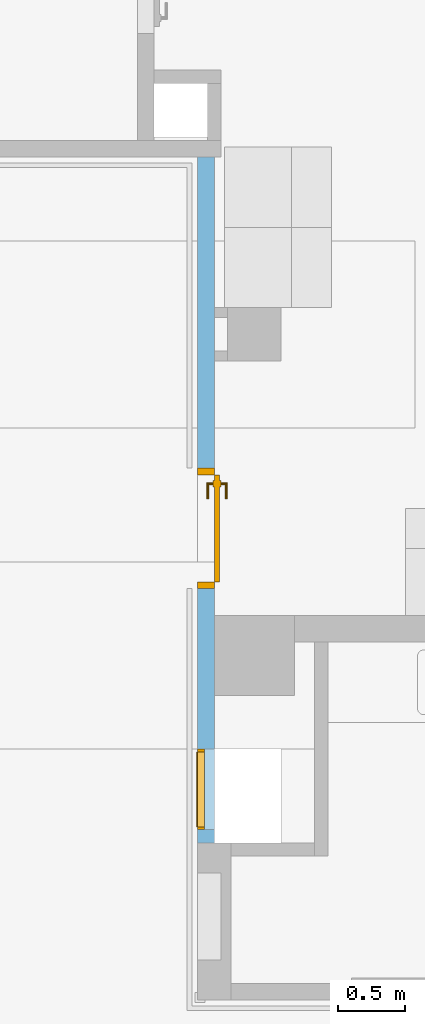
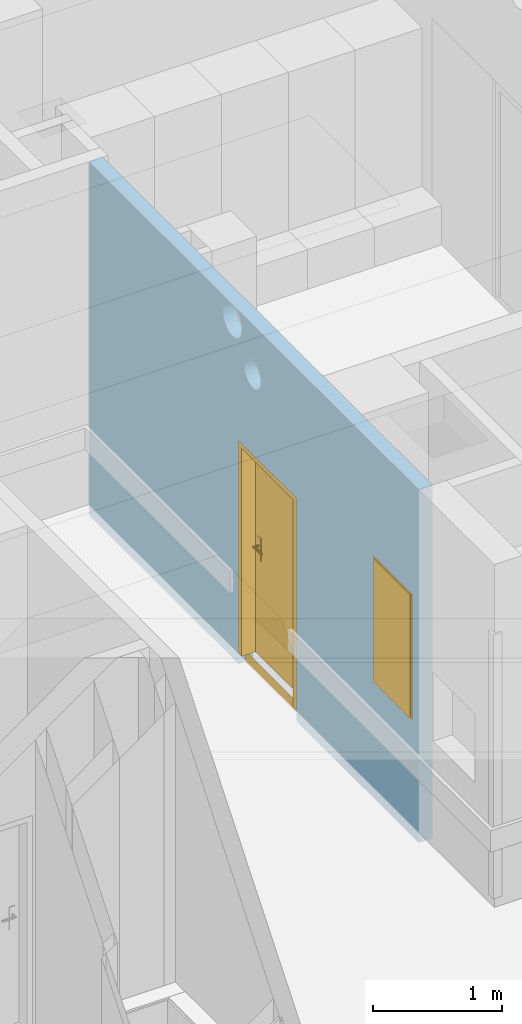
# One storey, part 97 of 140: 1 door, 1 window, 4 openings, plus 1 element that does not belong to this part.
"""IFC4 building model written with IfcOpenShell, lengths in metres."""

import ifcopenshell
import ifcopenshell.guid

model = None  # the IFC model being written
_history = None  # IfcOwnerHistory: only IFC2X3 demands one
_inside = {}  # id of a spatial element -> (the spatial element, [elements in it])
_under = {}  # id of a project, library or spatial element -> (it, [spatial elements below it])
_declared = {}  # id of a project -> (the project, [libraries it declares])
_typed = {}  # id of a type object -> (the type object, [elements of that type])
_made_of = {}  # id of a material, layer set ... -> (it, [elements and type objects made of it])


def new_model(schema):
    """Start an empty IFC model of exactly this schema.

    Asked for "IFC4X3", IfcOpenShell would pick the latest addendum, in which some entities
    have other attributes; the version numbers below select the first issue.
    IFC2X3 requires an IfcOwnerHistory on every rooted entity: one is made here for all.
    """
    global model, _history
    if schema == "IFC4X3":
        model = ifcopenshell.file(schema_version=(4, 3, 0, 0))
    else:
        model = ifcopenshell.file(schema=schema)
    _inside.clear()
    _under.clear()
    _declared.clear()
    _typed.clear()
    _made_of.clear()
    _history = None
    if model.schema == "IFC2X3":
        org = make("IfcOrganization", Name="unknown")
        user = make(
            "IfcPersonAndOrganization",
            ThePerson=make("IfcPerson", FamilyName="unknown"),
            TheOrganization=org,
        )
        app = make(
            "IfcApplication",
            ApplicationDeveloper=org,
            Version="unknown",
            ApplicationFullName="unknown",
            ApplicationIdentifier="unknown",
        )
        _history = make(
            "IfcOwnerHistory",
            OwningUser=user,
            OwningApplication=app,
            ChangeAction="ADDED",
            CreationDate=0,
        )
    return model


def make(cls, **values):
    """One entity of the class cls with the attributes given. An attribute that is None is left unset."""
    return model.create_entity(
        cls, **{name: value for name, value in values.items() if value is not None}
    )


def entity(cls, *values):
    """Any entity or typed value of the class cls, its attributes in the order of the schema. None: left unset."""
    e = model.create_entity(cls)
    for i, value in enumerate(values):
        if value is not None:
            e[i] = value
    return e


def rooted(cls, **values):
    """An entity with a GlobalId (a new one), such as an element, a storey or a relation."""
    return make(cls, GlobalId=ifcopenshell.guid.new(), OwnerHistory=_history, **values)


def si_unit(unit_type, name, prefix=None):
    """IfcSIUnit, for example si_unit("LENGTHUNIT", "METRE", prefix="MILLI")."""
    return make("IfcSIUnit", UnitType=unit_type, Prefix=prefix, Name=name)


def converted_unit(unit_type, name, factor, base, dimensions=None, offset=None):
    """IfcConversionBasedUnit, such as the inch: factor (a typed value) times the base unit."""
    return make(
        "IfcConversionBasedUnit"
        if offset is None
        else "IfcConversionBasedUnitWithOffset",
        ConversionOffset=offset,
        Dimensions=None
        if dimensions is None
        else entity("IfcDimensionalExponents", *dimensions),
        UnitType=unit_type,
        Name=name,
        ConversionFactor=make(
            "IfcMeasureWithUnit", ValueComponent=factor, UnitComponent=base
        ),
    )


def derived_unit(unit_type, elements):
    """IfcDerivedUnit: a product of units, each with its exponent."""
    return make(
        "IfcDerivedUnit",
        Elements=[
            make("IfcDerivedUnitElement", Unit=unit, Exponent=power)
            for unit, power in elements
        ],
        UnitType=unit_type,
    )


def assignment(units):
    """IfcUnitAssignment: the units of a project."""
    return None if units is None else make("IfcUnitAssignment", Units=units)


def point(xyz):
    """IfcCartesianPoint."""
    return None if xyz is None else make("IfcCartesianPoint", Coordinates=xyz)


def direction(xyz):
    """IfcDirection."""
    return None if xyz is None else make("IfcDirection", DirectionRatios=xyz)


def frame(location, z_axis=None, x_axis=None):
    """IfcAxis2Placement3D, a coordinate frame: its origin and axes. An axis left out is left unset."""
    return make(
        "IfcAxis2Placement3D",
        Location=point(location),
        Axis=direction(z_axis),
        RefDirection=direction(x_axis),
    )


def frame_2d(location, x_axis=None):
    """IfcAxis2Placement2D, a coordinate frame in the plane: its origin and x axis."""
    return make(
        "IfcAxis2Placement2D", Location=point(location), RefDirection=direction(x_axis)
    )


def origin():
    """The frame at (0, 0, 0) with its axes left unset."""
    return frame((0.0, 0.0, 0.0))


def origin_with_axes():
    """The frame at (0, 0, 0) with the z axis (0, 0, 1) and the x axis (1, 0, 0) written out."""
    return frame((0.0, 0.0, 0.0), z_axis=(0.0, 0.0, 1.0), x_axis=(1.0, 0.0, 0.0))


def place(relative_to, where):
    """IfcLocalPlacement: puts the frame where relative to a parent placement (None: the world)."""
    return make(
        "IfcLocalPlacement", PlacementRelTo=relative_to, RelativePlacement=where
    )


def context(
    kind, dimensions, precision=None, world=None, true_north=None, identifier=None
):
    """IfcGeometricRepresentationContext, for example the 3D "Model" context."""
    return make(
        "IfcGeometricRepresentationContext",
        ContextIdentifier=identifier,
        ContextType=kind,
        CoordinateSpaceDimension=dimensions,
        Precision=precision,
        WorldCoordinateSystem=world,
        TrueNorth=true_north,
    )


def subcontext(parent, identifier, kind, view, scale=None):
    """IfcGeometricRepresentationSubContext, for example "Body" below "Model"."""
    return make(
        "IfcGeometricRepresentationSubContext",
        ContextIdentifier=identifier,
        ContextType=kind,
        ParentContext=parent,
        TargetScale=scale,
        TargetView=view,
    )


def project(units=None, contexts=None):
    """IfcProject with its units and contexts."""
    return rooted(
        "IfcProject",
        Name="project",
        RepresentationContexts=contexts,
        UnitsInContext=assignment(units),
    )


def spatial(cls, under=None, at=None, **own):
    """A site, building, storey or space (cls), placed at a placement, below another one or the project."""
    s = rooted(cls, ObjectPlacement=at, **own)
    if under is not None:
        _under.setdefault(under.id(), (under, []))[1].append(s)
    return s


def polyline(points):
    """IfcPolyline through the points."""
    return make("IfcPolyline", Points=[point(p) for p in points])


def profile(cls, at=None, kind="AREA", **sizes):
    """A parametric profile (cls). Its sizes go by their IFC names, for example OverallWidth=200.0."""
    return make(cls, ProfileType=kind, Position=at, **sizes)


def rectangle(**sizes):
    """IfcRectangleProfileDef."""
    return profile("IfcRectangleProfileDef", **sizes)


def outline(outer, holes=None, kind="AREA"):
    """IfcArbitraryClosedProfileDef: a profile drawn as a closed curve; with holes, ...WithVoids."""
    if holes is None:
        return make("IfcArbitraryClosedProfileDef", ProfileType=kind, OuterCurve=outer)
    return make(
        "IfcArbitraryProfileDefWithVoids",
        ProfileType=kind,
        OuterCurve=outer,
        InnerCurves=holes,
    )


def extrude(swept, where, along, depth):
    """IfcExtrudedAreaSolid: the profile swept, set in the frame where, extruded along a direction by depth."""
    return make(
        "IfcExtrudedAreaSolid",
        SweptArea=swept,
        Position=where,
        ExtrudedDirection=direction(along),
        Depth=depth,
    )


def faces_of(points, faces, orient=None, outer=None):
    """IfcFace entities. A face is a list of loops; a loop is a list of indices into points, from 0.

    orient and outer hold one flag for each loop. By default every Orientation is true, the
    first loop of a face is its IfcFaceOuterBound and the others are IfcFaceBound.
    """
    made = []
    for i, loops in enumerate(faces):
        bounds = []
        for j, loop in enumerate(loops):
            is_outer = j == 0 if outer is None else outer[i][j]
            bounds.append(
                make(
                    "IfcFaceOuterBound" if is_outer else "IfcFaceBound",
                    Bound=make("IfcPolyLoop", Polygon=[points[k] for k in loop]),
                    Orientation=True if orient is None else orient[i][j],
                )
            )
        made.append(make("IfcFace", Bounds=bounds))
    return made


def closed_shell(faces, orient=None, outer=None):
    """The faces of one IfcClosedShell. faceted_brep and surface_model build it on their shared points."""
    return ("IfcClosedShell", faces, orient, outer)


def open_shell(faces, orient=None, outer=None):
    """The faces of one IfcOpenShell. surface_model builds it on its shared points."""
    return ("IfcOpenShell", faces, orient, outer)


def faceted_brep(points, faces, orient=None, outer=None, voids=None):
    """IfcFacetedBrep: a solid bounded by flat faces; with voids (closed shells), ...WithVoids."""
    shared = [point(p) for p in points]
    hull = make("IfcClosedShell", CfsFaces=faces_of(shared, faces, orient, outer))
    if voids is None:
        return make("IfcFacetedBrep", Outer=hull)
    return make(
        "IfcFacetedBrepWithVoids",
        Outer=hull,
        Voids=[
            make(cls, CfsFaces=faces_of(shared, fs, o, b)) for cls, fs, o, b in voids
        ],
    )


def surface_model(cls, points, shells):
    """IfcFaceBasedSurfaceModel or IfcShellBasedSurfaceModel (cls): surfaces that need not close."""
    shared = [point(p) for p in points]
    made = [make(c, CfsFaces=faces_of(shared, fs, o, b)) for c, fs, o, b in shells]
    if cls == "IfcFaceBasedSurfaceModel":
        return make(cls, FbsmFaces=made)
    return make(cls, SbsmBoundary=made)


def shape(context_of_items, identifier, shape_type, items):
    """IfcShapeRepresentation: the items that make up one representation, for example the "Body"."""
    return make(
        "IfcShapeRepresentation",
        ContextOfItems=context_of_items,
        RepresentationIdentifier=identifier,
        RepresentationType=shape_type,
        Items=items,
    )


def source(mapping_origin, context_of_items, identifier, shape_type, items):
    """IfcRepresentationMap: a shape defined once, which mapped items show again and again."""
    return make(
        "IfcRepresentationMap",
        MappingOrigin=mapping_origin,
        MappedRepresentation=shape(context_of_items, identifier, shape_type, items),
    )


def transform(
    local_origin,
    x_axis=None,
    y_axis=None,
    z_axis=None,
    scale=None,
    scale2=None,
    scale3=None,
    uniform=True,
):
    """IfcCartesianTransformationOperator3D, or its non-uniform kind. x_axis, y_axis, z_axis: its Axis1, 2, 3."""
    if uniform:
        return make(
            "IfcCartesianTransformationOperator3D",
            Axis1=direction(x_axis),
            Axis2=direction(y_axis),
            LocalOrigin=point(local_origin),
            Scale=scale,
            Axis3=direction(z_axis),
        )
    return make(
        "IfcCartesianTransformationOperator3DnonUniform",
        Axis1=direction(x_axis),
        Axis2=direction(y_axis),
        LocalOrigin=point(local_origin),
        Scale=scale,
        Axis3=direction(z_axis),
        Scale2=scale2,
        Scale3=scale3,
    )


def mapped(mapping_source, mapping_target):
    """IfcMappedItem: shows the shape of a source again, moved by a transform."""
    return make(
        "IfcMappedItem", MappingSource=mapping_source, MappingTarget=mapping_target
    )


def material(Name=None, Category=None):
    """IfcMaterial."""
    return make("IfcMaterial", Name=Name, Category=Category)


def layer(
    of_material, thickness, ventilated=None, Name=None, Category=None, Priority=None
):
    """IfcMaterialLayer: one layer of a wall or slab, of a material (None: an air gap)."""
    return make(
        "IfcMaterialLayer",
        Material=of_material,
        LayerThickness=thickness,
        IsVentilated=ventilated,
        Name=Name,
        Category=Category,
        Priority=Priority,
    )


def layer_set(layers, Name=None):
    """IfcMaterialLayerSet."""
    return make("IfcMaterialLayerSet", MaterialLayers=layers, LayerSetName=Name)


def layer_usage(for_layer_set, set_direction, sense, offset, extent=None):
    """IfcMaterialLayerSetUsage: how a layer set lies in its element."""
    return make(
        "IfcMaterialLayerSetUsage",
        ForLayerSet=for_layer_set,
        LayerSetDirection=set_direction,
        DirectionSense=sense,
        OffsetFromReferenceLine=offset,
        ReferenceExtent=extent,
    )


def made_of(thing, what):
    """Note that an element or type object is made of a material, layer set ...; save() writes the relation."""
    if what is not None:
        _made_of.setdefault(what.id(), (what, []))[1].append(thing)
    return thing


def type_object(cls, material=None, **own):
    """A type object (cls), such as IfcWallType, which elements share."""
    return made_of(rooted(cls, **own), material)


def element(
    cls,
    number,
    at=None,
    inside=None,
    cuts=None,
    type_object=None,
    material=None,
    context=None,
    identifier="Body",
    shape_type=None,
    held_by="IfcProductDefinitionShape",
    body=None,
    shapes=None,
    **own,
):
    """One element of the class cls, such as IfcWall. Its Tag is "e" and its number.

    at: its placement. inside: the storey or other place that contains it. cuts: it is an
    opening in that element (IfcRelVoidsElement). A single representation is given by context,
    identifier, shape_type and body (its items); several are given by shapes. held_by: the class
    of the entity that holds the representations. save() writes the other relations.
    """
    e = rooted(cls, Tag="e%d" % number, ObjectPlacement=at, **own)
    if body is not None:
        shapes = [shape(context, identifier, shape_type, body)]
    if shapes is not None:
        e.Representation = make(held_by, Representations=shapes)
    if inside is not None:
        _inside.setdefault(inside.id(), (inside, []))[1].append(e)
    if cuts is not None:
        rooted(
            "IfcRelVoidsElement", RelatingBuildingElement=cuts, RelatedOpeningElement=e
        )
    if type_object is not None:
        _typed.setdefault(type_object.id(), (type_object, []))[1].append(e)
    return made_of(e, material)


def fill(opening, filler):
    """IfcRelFillsElement: the door or window that sits in an opening."""
    return rooted(
        "IfcRelFillsElement",
        RelatingOpeningElement=opening,
        RelatedBuildingElement=filler,
    )


def aggregate(whole, parts):
    """IfcRelAggregates: a whole, such as a stair, and the parts it consists of."""
    return rooted("IfcRelAggregates", RelatingObject=whole, RelatedObjects=parts)


def save(model, path):
    """Write the relations noted so far, then the file.

    IfcRelAggregates (storeys below a building ...), IfcRelContainedInSpatialStructure (elements
    in a storey), IfcRelDefinesByType, IfcRelAssociatesMaterial and IfcRelDeclares: one each for
    every whole, place, type object, material and project.
    """
    for whole, parts in _under.values():
        aggregate(whole, parts)
    for where, things in _inside.values():
        rooted(
            "IfcRelContainedInSpatialStructure",
            RelatedElements=things,
            RelatingStructure=where,
        )
    for kind, things in _typed.values():
        rooted("IfcRelDefinesByType", RelatedObjects=things, RelatingType=kind)
    for what, things in _made_of.values():
        rooted("IfcRelAssociatesMaterial", RelatedObjects=things, RelatingMaterial=what)
    for by, libraries in _declared.values():
        rooted("IfcRelDeclares", RelatingContext=by, RelatedDefinitions=libraries)
    model.write(path)


model = new_model("IFC4")

# Units and contexts
model_context = context("Model", 3, precision=1e-05, world=origin())
body_context = subcontext(model_context, "Body", "Model", "MODEL_VIEW")
ifc_project = project(units=[si_unit("LENGTHUNIT", "METRE"), si_unit("AREAUNIT", "SQUARE_METRE"), si_unit("VOLUMEUNIT", "CUBIC_METRE"), si_unit("MASSUNIT", "GRAM", prefix="KILO"), converted_unit("PLANEANGLEUNIT", "DEGREE", entity("IfcPlaneAngleMeasure", 0.0174532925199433), si_unit("PLANEANGLEUNIT", "RADIAN"), dimensions=[0, 0, 0, 0, 0, 0, 0]), derived_unit("THERMALTRANSMITTANCEUNIT", [(si_unit("POWERUNIT", "WATT"), 1), (si_unit("THERMODYNAMICTEMPERATUREUNIT", "KELVIN"), -1), (si_unit("LENGTHUNIT", "METRE"), -2)]), derived_unit("VOLUMETRICFLOWRATEUNIT", [(si_unit("LENGTHUNIT", "METRE"), 3), (converted_unit("TIMEUNIT", "hour", entity("IfcTimeMeasure", 3600.0), si_unit("TIMEUNIT", "SECOND"), dimensions=[0, 0, 1, 0, 0, 0, 0]), -1), (si_unit("LENGTHUNIT", "METRE"), -1)])], contexts=[model_context])

# Site, building, storey
site_placement = place(None, origin())
site = spatial("IfcSite", under=ifc_project, at=site_placement, Name="3. ASŘ", CompositionType="ELEMENT")
building_placement = place(site_placement, origin())
building = spatial("IfcBuilding", under=site, at=building_placement, Name="Pavilon C", CompositionType="ELEMENT")
storey_placement = place(building_placement, origin())
storey = spatial("IfcBuildingStorey", under=building, at=storey_placement, Name="Půdorys 1.NP", CompositionType="ELEMENT", Elevation=0.0)

# Wall, openings, door, window
ifc_material = material(Name="SDK - 1 KCE + DVOJITÉ OPLÁŠTĚNÍ")
ifc_layer = layer(ifc_material, 0.125)
ifc_layer_set = layer_set([ifc_layer])
ifc_layer_usage = layer_usage(ifc_layer_set, "AXIS2", "POSITIVE", 0.0)
wall_placement = place(storey_placement, frame((43.525, 22.925, -0.1), z_axis=(0.0, 0.0, 1.0), x_axis=(0.0, -1.0, 0.0)))
wall = element("IfcWall", 1, at=wall_placement, inside=storey, material=ifc_layer_usage, Name="SDK - 1 KCE + DVOJITÉ OPLÁŠTĚNÍ", context=body_context, shape_type="SweptSolid", body=[
    extrude(rectangle(XDim=5.12499999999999, YDim=0.125, at=frame_2d((2.5625, 0.0625), x_axis=(1.0, 0.0))), origin_with_axes(), (0.0, 0.0, 1.0), 3.35),
])
opening_1_placement = place(wall_placement, frame((3.225, 0.125, 0.0), z_axis=(0.0, -1.0, 0.0), x_axis=(0.0, 0.0, 1.0)))
opening_1 = element("IfcOpeningElement", 2, at=opening_1_placement, cuts=wall, Name="Dveřní otvor", ObjectType="Opening", context=body_context, shape_type="SweptSolid", body=[
    extrude(outline(polyline([(0.0, 0.9), (2.12, 0.9), (2.12, 0.0), (0.0, 0.0), (0.0, 0.9)])), origin_with_axes(), (0.0, 0.0, 1.0), 0.125),
])
opening_2_placement = place(wall_placement, frame((4.425, 0.0, 1.1), z_axis=(0.0, 1.0, 0.0), x_axis=(0.0, 0.0, 1.0)))
opening_2 = element("IfcOpeningElement", 3, at=opening_2_placement, cuts=wall, Name="Okenní otvor", ObjectType="Opening", context=body_context, shape_type="SweptSolid", body=[
    extrude(outline(polyline([(0.0, 0.6), (1.2, 0.6), (1.2, 0.0), (0.0, 0.0), (0.0, 0.6)])), origin_with_axes(), (0.0, 0.0, 1.0), 0.125),
])
opening_3_placement = place(wall_placement, frame((2.3799120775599, 0.125, 3.05), z_axis=(0.0, -1.0, 0.0), x_axis=(0.0, 0.0, 1.0)))
element("IfcOpeningElement", 4, at=opening_3_placement, cuts=wall, Name="VZT", ObjectType="Opening", context=body_context, shape_type="SweptSolid", body=[
    extrude(outline(polyline([(0.149999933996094, 0.0), (0.134320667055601, 0.00082172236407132), (0.11881318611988, 0.00327787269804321), (0.10364739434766, 0.0073415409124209), (0.0889894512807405, 0.0129682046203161), (0.074999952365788, 0.0200962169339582), (0.0618321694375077, 0.0286474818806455), (0.0496303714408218, 0.0385283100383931), (0.0385282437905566, 0.0496304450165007), (0.0286474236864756, 0.0618322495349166), (0.0200961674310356, 0.0750000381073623), (0.0129681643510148, 0.0889895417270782), (0.00734151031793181, 0.103647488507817), (0.00327785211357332, 0.118813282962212), (0.000821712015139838, 0.134320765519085), (0.0, 0.150000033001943), (0.000821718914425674, 0.165679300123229), (0.00327786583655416, 0.181186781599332), (0.00734153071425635, 0.196352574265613), (0.012968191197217, 0.211010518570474), (0.0200962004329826, 0.225000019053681), (0.0286474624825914, 0.238167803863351), (0.0385282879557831, 0.250369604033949), (0.0496304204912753, 0.261471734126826), (0.0618322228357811, 0.271352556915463), (0.0750000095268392, 0.279903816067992), (0.088989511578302, 0.287031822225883), (0.103647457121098, 0.292658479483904), (0.118813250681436, 0.296722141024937), (0.134320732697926, 0.299178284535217), (0.149999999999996, 0.3), (0.165679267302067, 0.299178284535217), (0.181186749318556, 0.296722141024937), (0.196352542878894, 0.292658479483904), (0.211010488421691, 0.287031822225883), (0.224999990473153, 0.279903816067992), (0.238167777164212, 0.271352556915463), (0.250369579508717, 0.261471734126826), (0.26147171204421, 0.250369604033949), (0.271352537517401, 0.238167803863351), (0.27990379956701, 0.225000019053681), (0.287031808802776, 0.211010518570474), (0.292658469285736, 0.196352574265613), (0.296722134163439, 0.181186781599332), (0.299178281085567, 0.165679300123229), (0.299999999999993, 0.150000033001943), (0.299178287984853, 0.134320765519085), (0.296722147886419, 0.118813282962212), (0.292658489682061, 0.103647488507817), (0.287031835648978, 0.0889895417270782), (0.279903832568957, 0.0750000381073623), (0.271352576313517, 0.0618322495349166), (0.261471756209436, 0.0496304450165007), (0.250369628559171, 0.0385283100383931), (0.238167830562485, 0.0286474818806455), (0.225000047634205, 0.0200962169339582), (0.211010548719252, 0.0129682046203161), (0.196352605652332, 0.0073415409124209), (0.181186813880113, 0.00327787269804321), (0.165679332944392, 0.00082172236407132), (0.149999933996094, 0.0)])), origin_with_axes(), (0.0, 0.0, 1.0), 0.125),
])
opening_4_placement = place(wall_placement, frame((2.41653518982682, 0.0, 2.75), z_axis=(0.0, 1.0, 0.0), x_axis=(0.0, 0.0, 1.0)))
element("IfcOpeningElement", 5, at=opening_4_placement, cuts=wall, Name="VZT", ObjectType="Opening", context=body_context, shape_type="SweptSolid", body=[
    extrude(outline(polyline([(0.129999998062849, 0.0), (0.116411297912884, 0.000712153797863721), (0.102971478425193, 0.00284081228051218), (0.0898277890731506, 0.00636265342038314), (0.0771242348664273, 0.0112390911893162), (0.0649999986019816, 0.0174166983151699), (0.0535879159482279, 0.0248277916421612), (0.0430130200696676, 0.033391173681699), (0.0333911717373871, 0.0430130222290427), (0.0248277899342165, 0.0535879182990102), (0.0174166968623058, 0.0650000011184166), (0.011239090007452, 0.0771242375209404), (0.00636265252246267, 0.0898277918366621), (0.00284081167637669, 0.102971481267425), (0.000712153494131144, 0.116411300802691), (0.0, 0.130000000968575), (0.00071215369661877, 0.143588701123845), (0.00284081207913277, 0.157028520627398), (0.00636265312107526, 0.17017221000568), (0.0112390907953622, 0.182875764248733), (0.0174166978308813, 0.195000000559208), (0.0248277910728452, 0.206412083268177), (0.033391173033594, 0.216986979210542), (0.0430130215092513, 0.226608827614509), (0.0535879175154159, 0.235172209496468), (0.0650000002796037, 0.242583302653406), (0.0771242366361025, 0.248760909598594), (0.0898277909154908, 0.253637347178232), (0.102971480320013, 0.257159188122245), (0.116411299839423, 0.259287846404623), (0.13, 0.26), (0.143588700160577, 0.259287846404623), (0.157028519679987, 0.257159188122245), (0.170172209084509, 0.253637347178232), (0.182875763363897, 0.248760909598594), (0.194999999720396, 0.242583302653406), (0.206412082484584, 0.235172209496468), (0.216986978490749, 0.226608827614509), (0.226608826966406, 0.216986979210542), (0.235172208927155, 0.206412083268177), (0.242583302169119, 0.195000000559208), (0.248760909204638, 0.182875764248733), (0.253637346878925, 0.17017221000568), (0.257159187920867, 0.157028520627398), (0.259287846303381, 0.143588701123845), (0.26, 0.130000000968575), (0.259287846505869, 0.116411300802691), (0.257159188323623, 0.102971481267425), (0.253637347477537, 0.0898277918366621), (0.248760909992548, 0.0771242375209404), (0.242583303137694, 0.0650000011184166), (0.235172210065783, 0.0535879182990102), (0.226608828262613, 0.0430130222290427), (0.216986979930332, 0.033391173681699), (0.206412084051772, 0.0248277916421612), (0.195000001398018, 0.0174166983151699), (0.182875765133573, 0.0112390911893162), (0.170172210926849, 0.00636265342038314), (0.157028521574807, 0.00284081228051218), (0.143588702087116, 0.000712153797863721), (0.129999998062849, 0.0)])), origin_with_axes(), (0.0, 0.0, 1.0), 0.125),
])
door_type = type_object("IfcDoorType", Name="I.D105", OperationType="NOTDEFINED", ParameterTakesPrecedence=False, PredefinedType="DOOR")
shared_shape_1 = source(origin_with_axes(), body_context, "Body", "SurfaceModel", [
    surface_model("IfcShellBasedSurfaceModel", [(0.0, 0.0625, 0.0), (0.9, 0.0625, 0.0), (0.9, 0.0625, 0.1), (0.0, 0.0625, 0.1)], [open_shell([[[0, 1, 2, 3]]], orient=[[False]])]),
    surface_model("IfcShellBasedSurfaceModel", [(0.0, 0.125, 2.12), (0.0, 0.125, 0.101), (0.05, 0.125, 0.101), (0.05, 0.125, 2.12), (0.0, 0.0, 0.101), (0.0, 2.41584530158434e-16, 2.12), (0.05, 2.41584530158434e-16, 2.12), (0.05, 0.0, 0.101)], [closed_shell([[[0, 1, 2, 3]], [[4, 5, 6, 7]], [[1, 0, 5, 4]], [[2, 1, 4, 7]], [[3, 2, 7, 6]], [[0, 3, 6, 5]]], orient=[[False], [False], [False], [False], [False], [False]])]),
    surface_model("IfcShellBasedSurfaceModel", [(0.85, 0.125, 2.12), (0.85, 0.125, 0.101), (0.9, 0.125, 0.101), (0.9, 0.125, 2.12), (0.85, 0.0, 0.101), (0.85, 2.41584530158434e-16, 2.12), (0.9, 2.41584530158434e-16, 2.12), (0.9, 0.0, 0.101)], [closed_shell([[[0, 1, 2, 3]], [[4, 5, 6, 7]], [[1, 0, 5, 4]], [[2, 1, 4, 7]], [[3, 2, 7, 6]], [[0, 3, 6, 5]]], orient=[[False], [False], [False], [False], [False], [False]])]),
    surface_model("IfcShellBasedSurfaceModel", [(0.05, 0.125, 2.12), (0.05, 0.125, 2.07), (0.85, 0.125, 2.07), (0.85, 0.125, 2.12), (0.05, 2.41584530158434e-16, 2.07), (0.05, 2.41584530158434e-16, 2.12), (0.85, 2.41584530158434e-16, 2.12), (0.85, 2.41584530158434e-16, 2.07)], [closed_shell([[[0, 1, 2, 3]], [[4, 5, 6, 7]], [[1, 0, 5, 4]], [[2, 1, 4, 7]], [[3, 2, 7, 6]], [[0, 3, 6, 5]]], orient=[[False], [False], [False], [False], [False], [False]])]),
    surface_model("IfcShellBasedSurfaceModel", [(0.05, 0.165, 2.07), (0.05, 0.165, 0.101), (0.85, 0.165, 0.101), (0.85, 0.165, 2.07), (0.05, 0.125, 0.101), (0.05, 0.125, 2.07), (0.85, 0.125, 2.07), (0.85, 0.125, 0.101)], [closed_shell([[[0, 1, 2, 3]], [[4, 5, 6, 7]], [[1, 0, 5, 4]], [[2, 1, 4, 7]], [[3, 2, 7, 6]], [[0, 3, 6, 5]]], orient=[[False], [False], [False], [False], [False], [False]])]),
    surface_model("IfcShellBasedSurfaceModel", [(0.76, 0.125, 1.226), (0.76, 0.125, 1.011), (0.81, 0.125, 1.011), (0.81, 0.125, 1.226), (0.76, 0.115, 1.011), (0.76, 0.115, 1.226), (0.81, 0.115, 1.226), (0.81, 0.115, 1.011)], [closed_shell([[[0, 1, 2, 3]], [[4, 5, 6, 7]], [[1, 0, 5, 4]], [[2, 1, 4, 7]], [[3, 2, 7, 6]], [[0, 3, 6, 5]]], orient=[[False], [False], [False], [False], [False], [False]])]),
    surface_model("IfcShellBasedSurfaceModel", [(0.785, 0.115, 1.161), (0.78, 0.115, 1.15966025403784), (0.776339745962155, 0.115, 1.156), (0.775, 0.115, 1.151), (0.776339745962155, 0.115, 1.146), (0.78, 0.115, 1.14233974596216), (0.785, 0.115, 1.141), (0.79, 0.115, 1.14233974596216), (0.793660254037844, 0.115, 1.146), (0.795, 0.115, 1.151), (0.793660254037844, 0.115, 1.156), (0.79, 0.115, 1.15966025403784), (0.79, 0.0700000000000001, 1.15966025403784), (0.785, 0.0750000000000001, 1.161), (0.793660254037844, 0.0663397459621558, 1.156), (0.795, 0.0650000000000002, 1.151), (0.793660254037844, 0.0663397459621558, 1.146), (0.79, 0.0700000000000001, 1.14233974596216), (0.785, 0.0750000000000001, 1.141), (0.78, 0.0800000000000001, 1.14233974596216), (0.776339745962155, 0.0836602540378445, 1.146), (0.775, 0.0850000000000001, 1.151), (0.776339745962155, 0.0836602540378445, 1.156), (0.78, 0.0800000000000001, 1.15966025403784), (0.67, 0.0700000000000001, 1.15966025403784), (0.67, 0.0750000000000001, 1.161), (0.67, 0.0663397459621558, 1.156), (0.67, 0.0650000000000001, 1.151), (0.67, 0.0663397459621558, 1.146), (0.67, 0.0700000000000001, 1.14233974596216), (0.67, 0.0750000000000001, 1.141), (0.67, 0.0800000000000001, 1.14233974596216), (0.67, 0.0836602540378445, 1.146), (0.67, 0.0850000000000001, 1.151), (0.67, 0.0836602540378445, 1.156), (0.67, 0.0800000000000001, 1.15966025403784)], [open_shell([[[0, 1, 2, 3, 4, 5, 6, 7, 8, 9, 10, 11]], [[0, 11, 12, 13]], [[11, 10, 14, 12]], [[10, 9, 15, 14]], [[9, 8, 16, 15]], [[8, 7, 17, 16]], [[7, 6, 18, 17]], [[6, 5, 19, 18]], [[5, 4, 20, 19]], [[4, 3, 21, 20]], [[3, 2, 22, 21]], [[2, 1, 23, 22]], [[1, 0, 13, 23]], [[13, 12, 24, 25]], [[12, 14, 26, 24]], [[14, 15, 27, 26]], [[15, 16, 28, 27]], [[16, 17, 29, 28]], [[17, 18, 30, 29]], [[18, 19, 31, 30]], [[19, 20, 32, 31]], [[20, 21, 33, 32]], [[21, 22, 34, 33]], [[22, 23, 35, 34]], [[23, 13, 25, 35]]], orient=[[False], [False], [False], [False], [False], [False], [False], [False], [False], [False], [False], [False], [False], [False], [False], [False], [False], [False], [False], [False], [False], [False], [False], [False], [False]])]),
    surface_model("IfcShellBasedSurfaceModel", [(0.76, 0.165, 1.226), (0.81, 0.165, 1.226), (0.81, 0.165, 1.011), (0.76, 0.165, 1.011), (0.76, 0.175, 1.011), (0.81, 0.175, 1.011), (0.81, 0.175, 1.226), (0.76, 0.175, 1.226)], [closed_shell([[[0, 1, 2, 3]], [[4, 5, 6, 7]], [[3, 4, 7, 0]], [[2, 5, 4, 3]], [[1, 6, 5, 2]], [[0, 7, 6, 1]]], orient=[[False], [False], [False], [False], [False], [False]])]),
    surface_model("IfcShellBasedSurfaceModel", [(0.785, 0.175, 1.161), (0.79, 0.175, 1.15966025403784), (0.793660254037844, 0.175, 1.156), (0.795, 0.175, 1.151), (0.793660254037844, 0.175, 1.146), (0.79, 0.175, 1.14233974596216), (0.785, 0.175, 1.141), (0.78, 0.175, 1.14233974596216), (0.776339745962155, 0.175, 1.146), (0.775, 0.175, 1.151), (0.776339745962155, 0.175, 1.156), (0.78, 0.175, 1.15966025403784), (0.785, 0.215, 1.161), (0.79, 0.22, 1.15966025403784), (0.793660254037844, 0.223660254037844, 1.156), (0.795, 0.225, 1.151), (0.793660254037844, 0.223660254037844, 1.146), (0.79, 0.22, 1.14233974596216), (0.785, 0.215, 1.141), (0.78, 0.21, 1.14233974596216), (0.776339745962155, 0.206339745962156, 1.146), (0.775, 0.205, 1.151), (0.776339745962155, 0.206339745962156, 1.156), (0.78, 0.21, 1.15966025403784), (0.67, 0.215, 1.161), (0.67, 0.22, 1.15966025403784), (0.67, 0.223660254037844, 1.156), (0.67, 0.225, 1.151), (0.67, 0.223660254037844, 1.146), (0.67, 0.22, 1.14233974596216), (0.67, 0.215, 1.141), (0.67, 0.21, 1.14233974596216), (0.67, 0.206339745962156, 1.146), (0.67, 0.205, 1.151), (0.67, 0.206339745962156, 1.156), (0.67, 0.21, 1.15966025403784)], [open_shell([[[0, 1, 2, 3, 4, 5, 6, 7, 8, 9, 10, 11]], [[0, 12, 13, 1]], [[1, 13, 14, 2]], [[2, 14, 15, 3]], [[3, 15, 16, 4]], [[4, 16, 17, 5]], [[5, 17, 18, 6]], [[6, 18, 19, 7]], [[7, 19, 20, 8]], [[8, 20, 21, 9]], [[9, 21, 22, 10]], [[10, 22, 23, 11]], [[11, 23, 12, 0]], [[12, 24, 25, 13]], [[13, 25, 26, 14]], [[14, 26, 27, 15]], [[15, 27, 28, 16]], [[16, 28, 29, 17]], [[17, 29, 30, 18]], [[18, 30, 31, 19]], [[19, 31, 32, 20]], [[20, 32, 33, 21]], [[21, 33, 34, 22]], [[22, 34, 35, 23]], [[23, 35, 24, 12]]], orient=[[False], [False], [False], [False], [False], [False], [False], [False], [False], [False], [False], [False], [False], [False], [False], [False], [False], [False], [False], [False], [False], [False], [False], [False], [False]])]),
])
door_placement = place(opening_1_placement, frame((0.0, -7.27595761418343e-15, 0.125000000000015), z_axis=(1.0, 0.0, 0.0), x_axis=(0.0, 1.0, -2.44929359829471e-16)))
door = element("IfcDoor", 6, at=door_placement, inside=storey, type_object=door_type, Name="I.D105", OverallHeight=2.12, OverallWidth=0.9, context=body_context, shape_type="MappedRepresentation", body=[
    mapped(shared_shape_1, transform((0.0, 0.0, 0.0), x_axis=(1.0, 0.0, 0.0), y_axis=(0.0, -1.0, 0.0), z_axis=(0.0, 0.0, 1.0), scale=1.0)),
])
fill(opening_1, door)
shared_shape_2 = source(origin_with_axes(), body_context, "Body", "Brep", [
    faceted_brep([(0.0, 0.0600000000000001, 1.2), (0.0, 0.06, 4.91096680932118e-19), (0.02, 0.06, 4.91096680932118e-19), (0.02, 0.0600000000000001, 1.2), (0.0, 0.01, 6.61433067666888e-18), (0.0, 0.0100000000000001, 1.2), (0.02, 0.0100000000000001, 1.2), (0.02, 0.01, 6.61433067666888e-18)], [[[0, 1, 2, 3]], [[4, 5, 6, 7]], [[1, 0, 5, 4]], [[2, 1, 4, 7]], [[3, 2, 7, 6]], [[0, 3, 6, 5]]], orient=[[False], [False], [False], [False], [False], [False]]),
    faceted_brep([(0.58, 0.0600000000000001, 1.2), (0.58, 0.06, 4.91096680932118e-19), (0.6, 0.06, 4.91096680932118e-19), (0.6, 0.0600000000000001, 1.2), (0.58, 0.01, 6.61433067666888e-18), (0.58, 0.0100000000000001, 1.2), (0.6, 0.0100000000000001, 1.2), (0.6, 0.01, 6.61433067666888e-18)], [[[0, 1, 2, 3]], [[4, 5, 6, 7]], [[1, 0, 5, 4]], [[2, 1, 4, 7]], [[3, 2, 7, 6]], [[0, 3, 6, 5]]], orient=[[False], [False], [False], [False], [False], [False]]),
    faceted_brep([(0.02, 0.06, 0.02), (0.02, 0.06, 4.91096680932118e-19), (0.58, 0.06, 4.91096680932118e-19), (0.58, 0.06, 0.02), (0.02, 0.01, 6.61433067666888e-18), (0.02, 0.01, 0.02), (0.58, 0.01, 0.02), (0.58, 0.01, 6.61433067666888e-18)], [[[0, 1, 2, 3]], [[4, 5, 6, 7]], [[1, 0, 5, 4]], [[2, 1, 4, 7]], [[3, 2, 7, 6]], [[0, 3, 6, 5]]], orient=[[False], [False], [False], [False], [False], [False]]),
    faceted_brep([(0.02, 0.0600000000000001, 1.2), (0.02, 0.0600000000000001, 1.18), (0.58, 0.0600000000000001, 1.18), (0.58, 0.0600000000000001, 1.2), (0.02, 0.0100000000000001, 1.18), (0.02, 0.0100000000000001, 1.2), (0.58, 0.0100000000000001, 1.2), (0.58, 0.0100000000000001, 1.18)], [[[0, 1, 2, 3]], [[4, 5, 6, 7]], [[1, 0, 5, 4]], [[2, 1, 4, 7]], [[3, 2, 7, 6]], [[0, 3, 6, 5]]], orient=[[False], [False], [False], [False], [False], [False]]),
    faceted_brep([(0.02, 0.0100000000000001, 1.18), (0.02, 0.01, 0.02), (0.58, 0.01, 0.02), (0.58, 0.0100000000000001, 1.18), (0.02, 0.0, 0.02), (0.02, 1.4210854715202e-16, 1.18), (0.58, 1.4210854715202e-16, 1.18), (0.58, 0.0, 0.02)], [[[0, 1, 2, 3]], [[4, 5, 6, 7]], [[1, 0, 5, 4]], [[2, 1, 4, 7]], [[3, 2, 7, 6]], [[0, 3, 6, 5]]], orient=[[False], [False], [False], [False], [False], [False]]),
])
window_placement = place(opening_2_placement, frame((0.0, 0.600000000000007, -0.0100000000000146), z_axis=(1.0, 0.0, 0.0), x_axis=(0.0, -1.0, -1.22464679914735e-16)))
window = element("IfcWindow", 7, at=window_placement, inside=storey, Name="I.Z6", OverallHeight=1.2, OverallWidth=0.6, PartitioningType="USERDEFINED", PredefinedType="WINDOW", context=body_context, shape_type="MappedRepresentation", body=[
    mapped(shared_shape_2, transform((0.0, 0.0, 0.0), x_axis=(1.0, 0.0, 0.0), y_axis=(0.0, -1.0, 0.0), z_axis=(0.0, 0.0, 1.0), scale=1.0)),
])
fill(opening_2, window)

save(model, "model.ifc")
